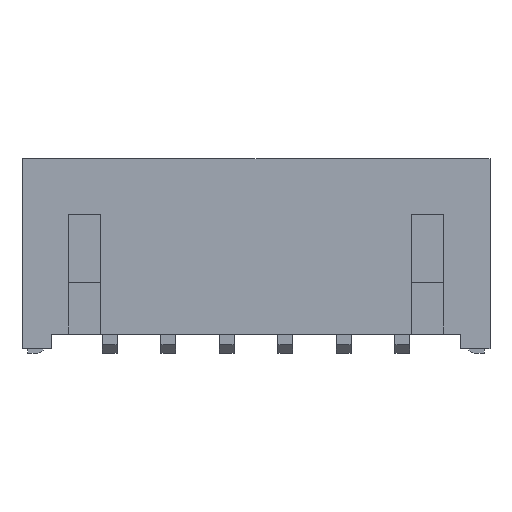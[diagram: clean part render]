
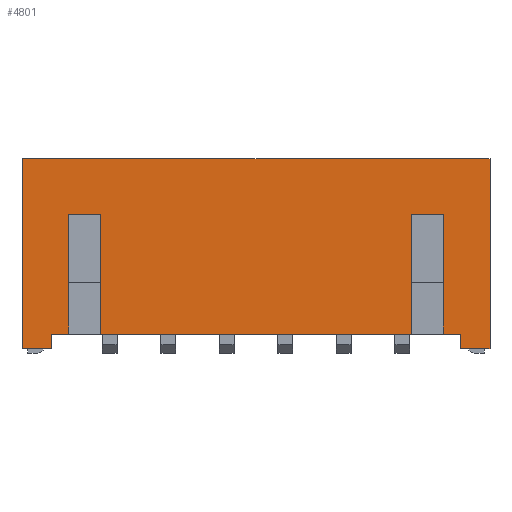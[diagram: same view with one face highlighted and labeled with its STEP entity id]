
A CAD part, top view. The second image highlights one B-rep face of the part: STEP entity #4801.
In plain terms, the highlighted planar face has unit normal (0, 0, 1).
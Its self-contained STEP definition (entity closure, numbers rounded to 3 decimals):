
#597=DIRECTION('',(1.,0.,0.));
#598=VECTOR('',#597,0.6);
#599=CARTESIAN_POINT('',(14.4,0.5,0.));
#600=LINE('',#599,#598);
#601=DIRECTION('',(0.,-1.,0.));
#602=VECTOR('',#601,4.1);
#603=CARTESIAN_POINT('',(14.4,4.6,0.));
#604=LINE('',#603,#602);
#605=DIRECTION('',(1.,0.,0.));
#606=VECTOR('',#605,1.1);
#607=CARTESIAN_POINT('',(13.3,4.6,0.));
#608=LINE('',#607,#606);
#609=DIRECTION('',(0.,1.,0.));
#610=VECTOR('',#609,4.1);
#611=CARTESIAN_POINT('',(13.3,0.5,0.));
#612=LINE('',#611,#610);
#613=DIRECTION('',(-1.,0.,0.));
#614=VECTOR('',#613,10.6);
#615=CARTESIAN_POINT('',(13.3,0.5,0.));
#616=LINE('',#615,#614);
#617=DIRECTION('',(0.,1.,0.));
#618=VECTOR('',#617,4.1);
#619=CARTESIAN_POINT('',(2.7,0.5,0.));
#620=LINE('',#619,#618);
#621=DIRECTION('',(-1.,0.,0.));
#622=VECTOR('',#621,1.1);
#623=CARTESIAN_POINT('',(2.7,4.6,0.));
#624=LINE('',#623,#622);
#625=DIRECTION('',(0.,-1.,0.));
#626=VECTOR('',#625,4.1);
#627=CARTESIAN_POINT('',(1.6,4.6,0.));
#628=LINE('',#627,#626);
#629=DIRECTION('',(-1.,0.,0.));
#630=VECTOR('',#629,0.6);
#631=CARTESIAN_POINT('',(1.6,0.5,0.));
#632=LINE('',#631,#630);
#637=DIRECTION('',(-1.,0.,0.));
#638=VECTOR('',#637,16.);
#639=CARTESIAN_POINT('',(16.,6.5,0.));
#640=LINE('',#639,#638);
#1951=DIRECTION('',(0.,1.,0.));
#1952=VECTOR('',#1951,0.5);
#1953=CARTESIAN_POINT('',(15.,0.,0.));
#1954=LINE('',#1953,#1952);
#1959=DIRECTION('',(-1.,0.,0.));
#1960=VECTOR('',#1959,1.);
#1961=CARTESIAN_POINT('',(16.,0.,0.));
#1962=LINE('',#1961,#1960);
#1971=DIRECTION('',(0.,-1.,0.));
#1972=VECTOR('',#1971,6.5);
#1973=CARTESIAN_POINT('',(16.,6.5,0.));
#1974=LINE('',#1973,#1972);
#2285=DIRECTION('',(0.,-1.,0.));
#2286=VECTOR('',#2285,6.5);
#2287=CARTESIAN_POINT('',(0.,6.5,0.));
#2288=LINE('',#2287,#2286);
#2297=DIRECTION('',(1.,0.,0.));
#2298=VECTOR('',#2297,1.);
#2299=CARTESIAN_POINT('',(0.,0.,0.));
#2300=LINE('',#2299,#2298);
#2305=DIRECTION('',(0.,1.,0.));
#2306=VECTOR('',#2305,0.5);
#2307=CARTESIAN_POINT('',(1.,0.,0.));
#2308=LINE('',#2307,#2306);
#2935=CARTESIAN_POINT('',(1.,0.5,0.));
#2936=VERTEX_POINT('',#2935);
#2937=CARTESIAN_POINT('',(1.6,0.5,0.));
#2938=VERTEX_POINT('',#2937);
#2943=CARTESIAN_POINT('',(2.7,0.5,0.));
#2944=VERTEX_POINT('',#2943);
#3033=CARTESIAN_POINT('',(2.7,4.6,0.));
#3034=VERTEX_POINT('',#3033);
#3035=CARTESIAN_POINT('',(1.6,4.6,0.));
#3036=VERTEX_POINT('',#3035);
#3037=CARTESIAN_POINT('',(1.,0.,0.));
#3038=VERTEX_POINT('',#3037);
#3039=CARTESIAN_POINT('',(0.,0.,0.));
#3040=VERTEX_POINT('',#3039);
#3041=CARTESIAN_POINT('',(0.,6.5,0.));
#3042=VERTEX_POINT('',#3041);
#3397=CARTESIAN_POINT('',(15.,0.5,0.));
#3398=VERTEX_POINT('',#3397);
#3399=CARTESIAN_POINT('',(14.4,0.5,0.));
#3400=VERTEX_POINT('',#3399);
#3405=CARTESIAN_POINT('',(13.3,0.5,0.));
#3406=VERTEX_POINT('',#3405);
#3495=CARTESIAN_POINT('',(13.3,4.6,0.));
#3496=VERTEX_POINT('',#3495);
#3497=CARTESIAN_POINT('',(14.4,4.6,0.));
#3498=VERTEX_POINT('',#3497);
#3499=CARTESIAN_POINT('',(15.,0.,0.));
#3500=VERTEX_POINT('',#3499);
#3501=CARTESIAN_POINT('',(16.,0.,0.));
#3502=VERTEX_POINT('',#3501);
#3503=CARTESIAN_POINT('',(16.,6.5,0.));
#3504=VERTEX_POINT('',#3503);
#4765=CARTESIAN_POINT('',(6.,3.25,0.));
#4766=DIRECTION('',(0.,0.,1.));
#4767=DIRECTION('',(1.,0.,0.));
#4768=AXIS2_PLACEMENT_3D('',#4765,#4766,#4767);
#4769=PLANE('',#4768);
#4771=ORIENTED_EDGE('',*,*,#4770,.F.);
#4773=ORIENTED_EDGE('',*,*,#4772,.T.);
#4775=ORIENTED_EDGE('',*,*,#4774,.T.);
#4777=ORIENTED_EDGE('',*,*,#4776,.T.);
#4778=ORIENTED_EDGE('',*,*,#3870,.F.);
#4780=ORIENTED_EDGE('',*,*,#4779,.F.);
#4782=ORIENTED_EDGE('',*,*,#4781,.F.);
#4784=ORIENTED_EDGE('',*,*,#4783,.F.);
#4785=ORIENTED_EDGE('',*,*,#3862,.T.);
#4787=ORIENTED_EDGE('',*,*,#4786,.T.);
#4789=ORIENTED_EDGE('',*,*,#4788,.T.);
#4791=ORIENTED_EDGE('',*,*,#4790,.T.);
#4792=ORIENTED_EDGE('',*,*,#3894,.T.);
#4794=ORIENTED_EDGE('',*,*,#4793,.F.);
#4796=ORIENTED_EDGE('',*,*,#4795,.F.);
#4798=ORIENTED_EDGE('',*,*,#4797,.F.);
#4799=EDGE_LOOP('',(#4771,#4773,#4775,#4777,#4778,#4780,#4782,#4784,#4785,#4787,
#4789,#4791,#4792,#4794,#4796,#4798));
#4800=FACE_OUTER_BOUND('',#4799,.F.);
#4801=ADVANCED_FACE('',(#4800),#4769,.T.);
#3862=EDGE_CURVE('',#3406,#2944,#616,.T.);
#3870=EDGE_CURVE('',#3400,#3398,#600,.T.);
#3894=EDGE_CURVE('',#2938,#2936,#632,.T.);
#4770=EDGE_CURVE('',#3504,#3042,#640,.T.);
#4772=EDGE_CURVE('',#3504,#3502,#1974,.T.);
#4774=EDGE_CURVE('',#3502,#3500,#1962,.T.);
#4776=EDGE_CURVE('',#3500,#3398,#1954,.T.);
#4779=EDGE_CURVE('',#3498,#3400,#604,.T.);
#4781=EDGE_CURVE('',#3496,#3498,#608,.T.);
#4783=EDGE_CURVE('',#3406,#3496,#612,.T.);
#4786=EDGE_CURVE('',#2944,#3034,#620,.T.);
#4788=EDGE_CURVE('',#3034,#3036,#624,.T.);
#4790=EDGE_CURVE('',#3036,#2938,#628,.T.);
#4793=EDGE_CURVE('',#3038,#2936,#2308,.T.);
#4795=EDGE_CURVE('',#3040,#3038,#2300,.T.);
#4797=EDGE_CURVE('',#3042,#3040,#2288,.T.);
